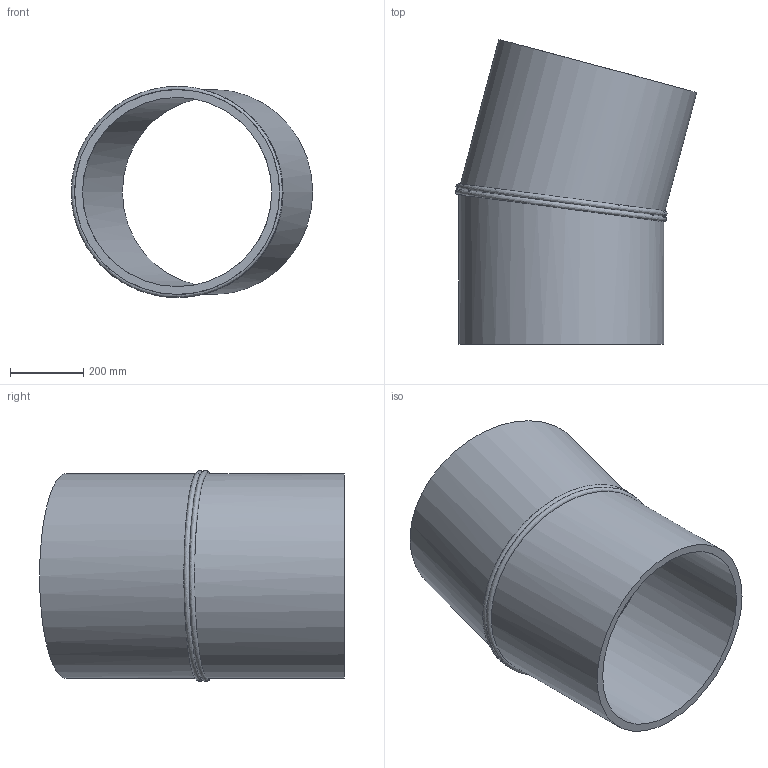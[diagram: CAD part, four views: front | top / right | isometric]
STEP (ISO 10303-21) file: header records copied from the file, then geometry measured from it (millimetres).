
FILE_DESCRIPTION(/* description */ ('Unknown'),/* implementation_level */ '2;1');
FILE_NAME(/* name */ 'Curva 15° a settore DE560 SDR17',/* time_stamp */ '2022-07-22T17:07:32+02:00',/* author */ ('Unknown'),/* organization */ ('Unknown'),/* preprocessor_version */ 'ST-DEVELOPER v18.102',/* originating_system */ 'Solid Edge',/* authorisation */ 'Unknown');
FILE_SCHEMA (('AUTOMOTIVE_DESIGN {1 0 10303 214 3 1 1}'));
Length unit declared in the file: millimetre
Products named in the file (2): Curva 15° a settore DE560 SDR17; Tubo x Gomito 15° DE560 SDR17
Assembly tree (2 placements, depth 2):
  Curva 15° a settore DE560 SDR17
    Tubo x Gomito 15° DE560 SDR17  x2
Bounding box: 660.01 x 833.01 x 576.93 mm (x, y, z)
Volume: 28385032.5 mm3; surface area: 2803423.1 mm2
Topology: 2 solids, 2 shells, 10 faces, 20 edges, 14 vertices
Faces by surface type: cylinder 4, plane 4, bspline 2
Full cylindrical faces by diameter (mm): 517.2 x2, 560 x2
Entity records: 1290 total; most frequent: CARTESIAN_POINT 1153, DIRECTION 20, ORIENTED_EDGE 10, EDGE_LOOP 10, FACE_BOUND 10, AXIS2_PLACEMENT_3D 10, EDGE_CURVE 5, VERTEX_POINT 5
